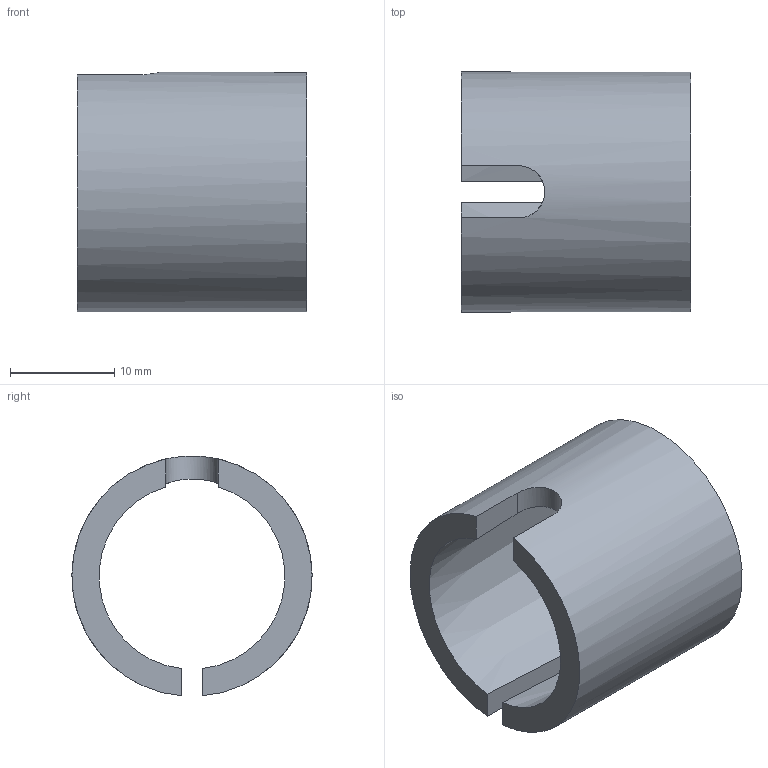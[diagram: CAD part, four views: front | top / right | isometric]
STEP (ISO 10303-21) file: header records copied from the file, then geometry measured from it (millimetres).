
FILE_DESCRIPTION( ( '' ), '1' );
FILE_NAME( 'W:/Catalogue/JF6H/JF6H_OPTION/JF6H35_Sleeve.stp', '2008-05-26T01:04:30', ( '機械事業部産業機器グループ' ), ( '豊和工業株式会社' ), 'XStep 1.0', ' ', ' ' );
FILE_SCHEMA( ( 'CONFIG_CONTROL_DESIGN' ) );
Length unit declared in the file: millimetre
Products named in the file (1): 1
Bounding box: 22 x 23 x 22.96 mm (x, y, z)
Volume: 2780.1 mm3; surface area: 3117 mm2
Topology: 1 solids, 1 shells, 10 faces, 24 edges, 16 vertices
Faces by surface type: plane 7, cylinder 2, cone 1
Entity records: 416 total; most frequent: CARTESIAN_POINT 141, ORIENTED_EDGE 48, DIRECTION 46, EDGE_CURVE 24, AXIS2_PLACEMENT_3D 17, VERTEX_POINT 16, LINE 12, VECTOR 12
